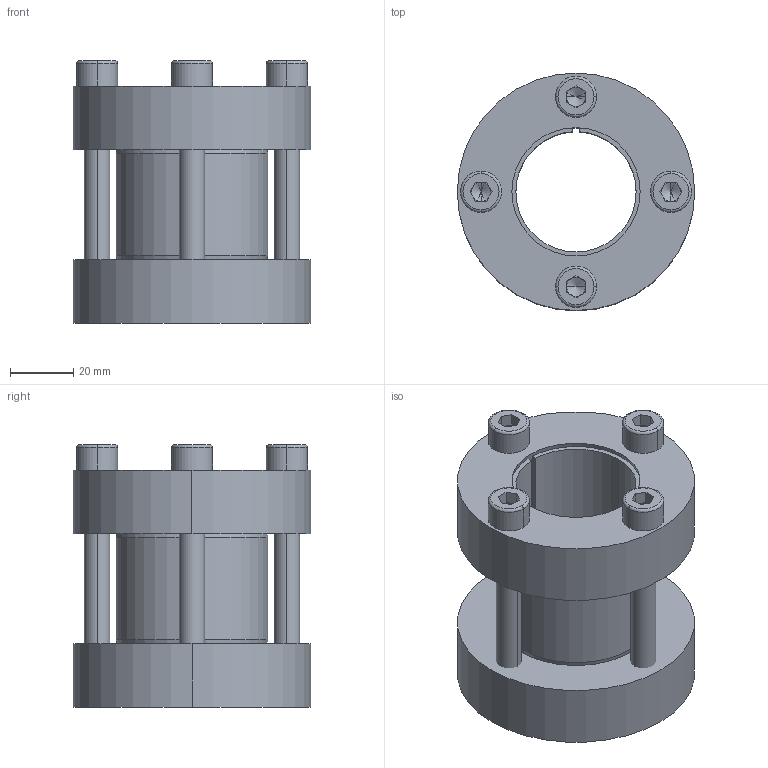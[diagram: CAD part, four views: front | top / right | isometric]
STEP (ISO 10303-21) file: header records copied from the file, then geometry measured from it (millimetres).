
FILE_DESCRIPTION (( 'STEP AP214' ), '1' );
FILE_NAME ('CONEX-M-38x75.step', '2013-04-06T13:25:28', ( 'Pc' ), ( '' ), 'SwSTEP 2.0', 'SolidWorks 2013', '' );
FILE_SCHEMA (( 'AUTOMOTIVE_DESIGN' ));
Length unit declared in the file: millimetre
Products named in the file (1): CONEX-M-38x75
Bounding box: 75 x 75 x 82.85 mm (x, y, z)
Volume: 163584.7 mm3; surface area: 59141.2 mm2
Topology: 7 solids, 7 shells, 152 faces, 342 edges, 204 vertices
Faces by surface type: plane 68, cylinder 42, cone 26, torus 16
Entity records: 5991 total; most frequent: DIRECTION 798, CARTESIAN_POINT 718, ORIENTED_EDGE 668, EDGE_CURVE 334, AXIS2_PLACEMENT_3D 315, VERTEX_POINT 204, EDGE_LOOP 180, LINE 168
